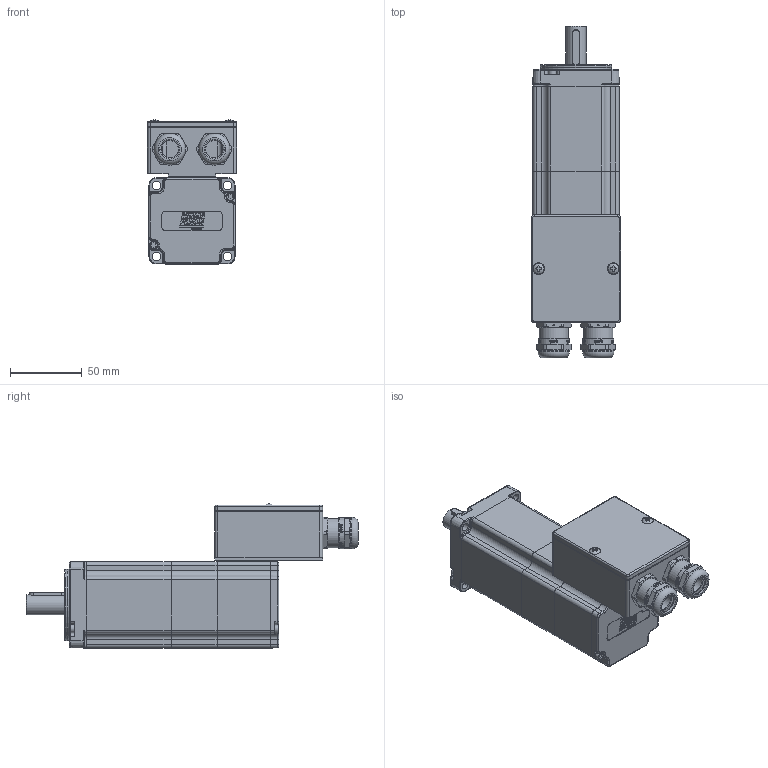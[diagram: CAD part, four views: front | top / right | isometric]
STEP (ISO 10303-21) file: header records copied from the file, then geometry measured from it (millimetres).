
FILE_DESCRIPTION(/* description */ ('Unknown'),/* implementation_level */ '2;1');
FILE_NAME(/* name */ 'TC4-60.2A LV M1 FRENO MORS Q0C151',/* time_stamp */ '2026-06-09T11:41:56+02:00',/* author */ ('Unknown'),/* organization */ ('Unknown'),/* preprocessor_version */ 'ST-DEVELOPER v19.4',/* originating_system */ 'Solid Edge',/* authorisation */ 'Unknown');
FILE_SCHEMA (('AUTOMOTIVE_DESIGN {1 0 10303 214 3 1 1}'));
Products named in the file (25): Q0C151 2A FRENO VUOTO M1; 003103040224; 005911000203; 005119001310; 007303000700; Albero TC4 60 H18 FRENO LV 2; 005911000503; 003107003285; 003155002207; 005911000492; 003251040722; 003151003184; 005911000495; 007303000800; 003110000040; 005113000400; 005603000160; 005603000160_Gland; 005603000160_Nut; 005603000160_Clamping insert; 005603000160_Sealing insert; 005603000160_O Ring; 003755100323; 003355001207; 005911000278
Assembly tree (36 placements, depth 3):
  Q0C151 2A FRENO VUOTO M1
    003103040224
    005911000203  x4
    005119001310
    007303000700
    Albero TC4 60 H18 FRENO LV 2
    005911000503  x2
    003107003285
    003155002207
    005911000492  x2
    003251040722
    003151003184
    005911000495  x4
    007303000800
    003110000040
    005113000400
    005603000160  x2
      005603000160_Gland
      005603000160_Nut
      005603000160_Clamping insert
      005603000160_Sealing insert
      005603000160_O Ring
    003755100323
    003355001207
    005911000278  x4
Bounding box: 62 x 231.15 x 100.3 mm (x, y, z)
Volume: 262708.4 mm3; surface area: 178740.4 mm2
Topology: 41 solids, 41 shells, 2803 faces, 7115 edges, 4589 vertices
Faces by surface type: plane 1647, cylinder 631, cone 201, bspline 161, torus 154, sphere 9
Full cylindrical faces by diameter (mm): 2 x4, 2.013 x8, 2.459 x23, 2.5 x5, 2.7 x4, 3 x6, 3.2 x1, 3.242 x7, 3.5 x16, 3.9 x2, 4 x4, 4.134 x1, 4.25 x4, 4.5 x4, 5 x12, 5.5 x6, 5.8 x4, 7 x4, 7.5 x2, 8 x2, 10 x1, 12 x3, 12.2 x2, 12.3 x2, 14 x3, 14.1 x4, 14.5 x1, 14.99 x1, 15 x1, 16.3 x4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
Entity records: 74234 total; most frequent: CARTESIAN_POINT 16351, DIRECTION 10022, ORIENTED_EDGE 9884, EDGE_CURVE 4942, AXIS2_PLACEMENT_3D 3655, VERTEX_POINT 3340, LINE 2712, VECTOR 2712
